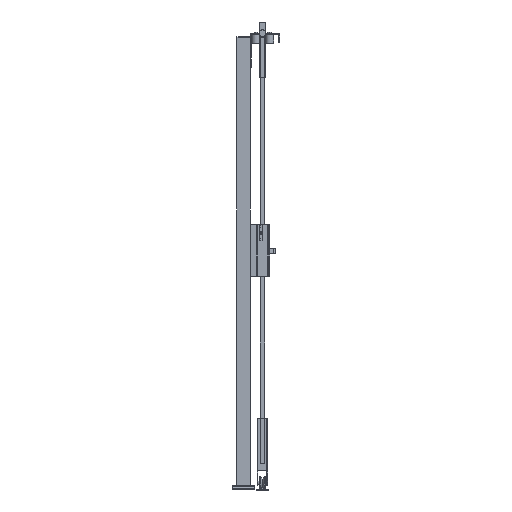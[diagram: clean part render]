
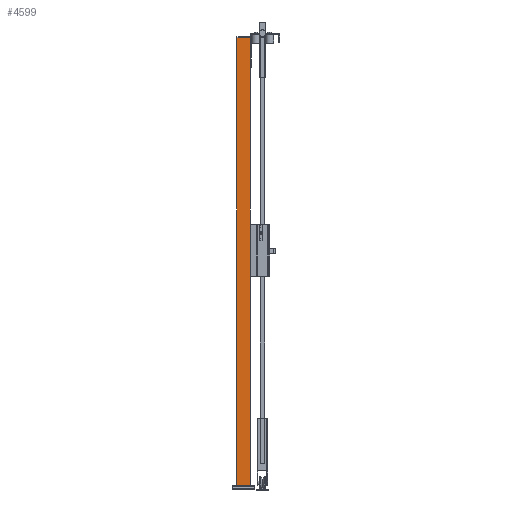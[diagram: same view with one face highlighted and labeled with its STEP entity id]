
A CAD part, left-side view. The second image highlights one B-rep face of the part: STEP entity #4599.
In plain terms, the highlighted planar face has unit normal (-1, 0, 0) as drawn and (0, 1, 0) by its records, which use the part's own axes.
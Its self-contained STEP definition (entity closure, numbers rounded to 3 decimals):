
#532=FACE_OUTER_BOUND('',#867,.T.);
#867=EDGE_LOOP('',(#2989,#2990,#2991,#2992));
#1260=VERTEX_POINT('',#9588);
#1261=VERTEX_POINT('',#9590);
#1263=VERTEX_POINT('',#9596);
#1266=VERTEX_POINT('',#9601);
#1933=EDGE_CURVE('',#1260,#1261,#5357,.T.);
#1939=EDGE_CURVE('',#1266,#1263,#5363,.T.);
#1942=EDGE_CURVE('',#1261,#1266,#5366,.T.);
#1943=EDGE_CURVE('',#1260,#1263,#5367,.T.);
#2989=ORIENTED_EDGE('',*,*,#1943,.T.);
#2990=ORIENTED_EDGE('',*,*,#1939,.F.);
#2991=ORIENTED_EDGE('',*,*,#1942,.F.);
#2992=ORIENTED_EDGE('',*,*,#1933,.F.);
#4310=PLANE('',#6768);
#4599=ADVANCED_FACE('',(#532),#4310,.F.);
#5357=LINE('',#9591,#6125);
#5363=LINE('',#9603,#6131);
#5366=LINE('',#9608,#6134);
#5367=LINE('',#9610,#6135);
#6125=VECTOR('',#7605,1.);
#6131=VECTOR('',#7613,1.);
#6134=VECTOR('',#7620,1.);
#6135=VECTOR('',#7623,1.);
#6768=AXIS2_PLACEMENT_3D('',#9609,#7621,#7622);
#7605=DIRECTION('',(-1.,0.,0.));
#7613=DIRECTION('',(1.,0.,0.));
#7620=DIRECTION('',(0.,0.,-1.));
#7621=DIRECTION('center_axis',(0.,-1.,0.));
#7622=DIRECTION('ref_axis',(0.,0.,-1.));
#7623=DIRECTION('',(0.,0.,-1.));
#9588=CARTESIAN_POINT('',(30.,30.,2020.));
#9590=CARTESIAN_POINT('',(-30.,30.,2020.));
#9591=CARTESIAN_POINT('',(0.,30.,2020.));
#9596=CARTESIAN_POINT('',(30.,30.,20.));
#9601=CARTESIAN_POINT('',(-30.,30.,20.));
#9603=CARTESIAN_POINT('',(0.,30.,20.));
#9608=CARTESIAN_POINT('',(-30.,30.,1020.));
#9609=CARTESIAN_POINT('Origin',(0.,30.,
1020.));
#9610=CARTESIAN_POINT('',(30.,30.,1020.));
